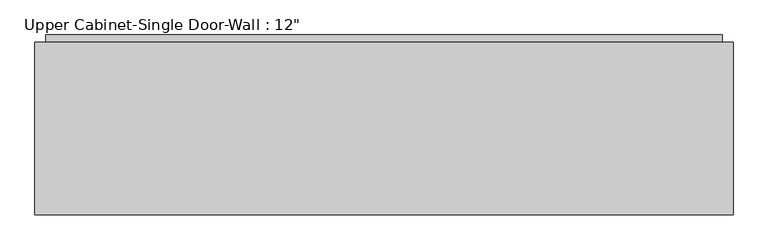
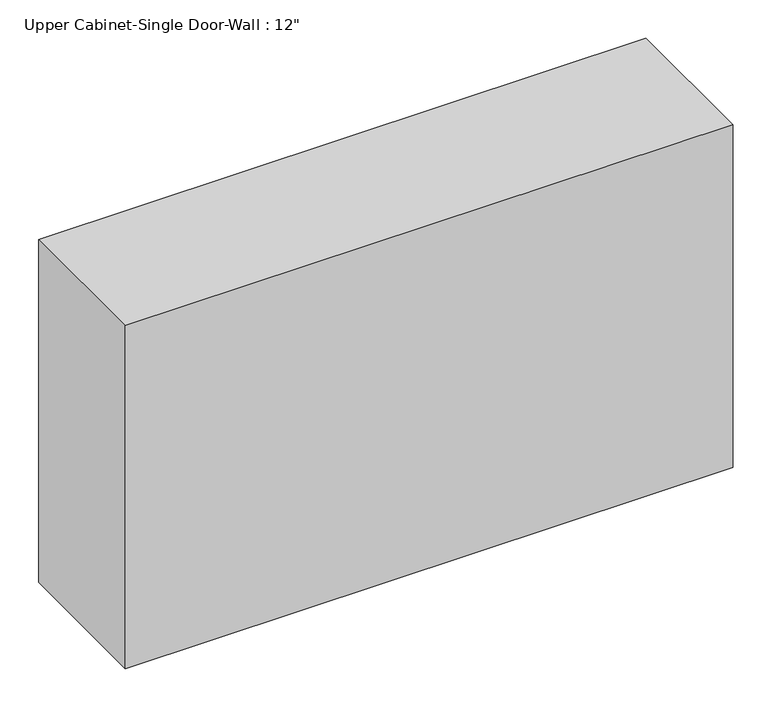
"""IFC4 building model written with IfcOpenShell, lengths in millimetres: furniture geometry."""

from ifc_helpers import new_model, si_unit, frame, origin, place, context, project, spatial, polyline, outline, extrude, faceted_brep, source, transform, mapped, element, save


def furniture_8e5b1bc1(model_context):
    return source(origin(), model_context, "Body", "SolidModel", [
        faceted_brep([(-975.7296931, 171.45, 2133.6), (-975.7296931, 171.45, 1397.0), (258.3711628, 171.45, 1397.0), (258.3711628, 171.45, 2133.6), (-975.7296931, 476.25, 2133.6), (258.3711628, 476.25, 2133.6), (258.3711628, 476.25, 1397.0), (-975.7296931, 476.25, 1397.0), (-956.6796931, 476.25, 2114.55), (-956.6796931, 476.25, 1416.05), (239.3211628, 476.25, 1416.05), (239.3211628, 476.25, 2114.55), (239.3211628, 190.5, 2114.55), (-956.6796931, 190.5, 2114.55), (239.3211628, 190.5, 1416.05), (-956.6796931, 190.5, 1416.05)], [[[0, 1, 2, 3]], [[4, 5, 6, 7], [8, 9, 10, 11]], [[1, 0, 4, 7]], [[2, 1, 7, 6]], [[3, 2, 6, 5]], [[0, 3, 5, 4]], [[8, 11, 12, 13]], [[11, 10, 14, 12]], [[10, 9, 15, 14]], [[9, 8, 13, 15]], [[13, 12, 14, 15]]]),
        extrude(outline(polyline([(-956.6796931, 488.95), (239.3211628, 488.95), (239.3211628, 457.2), (-956.6796931, 457.2), (-956.6796931, 488.95)])), frame((0.0, 0.0, 1416.05), z_axis=(0.0, 0.0, 1.0), x_axis=(1.0, 0.0, 0.0)), (0.0, 0.0, 1.0), 698.5),
    ])


if __name__ == "__main__":
    model = new_model("IFC4")
    model_context = context("Model", 3, world=origin())
    ifc_project = project(units=[si_unit("LENGTHUNIT", "METRE", prefix="MILLI")], contexts=[model_context])
    site = spatial("IfcSite", under=ifc_project)
    building = spatial("IfcBuilding", under=site)
    placement = place(None, origin())
    furniture_shape = furniture_8e5b1bc1(model_context)
    element("IfcFurniture", 1, ObjectType="Upper Cabinet-Single Door-Wall : 12\"", at=placement, inside=building, context=model_context, shape_type="MappedRepresentation", body=[
        mapped(furniture_shape, transform((0.0, 0.0, 0.0), x_axis=(1.0, 0.0, 0.0), y_axis=(0.0, 1.0, 0.0), z_axis=(0.0, 0.0, 1.0))),
    ])
    save(model, "model.ifc")
